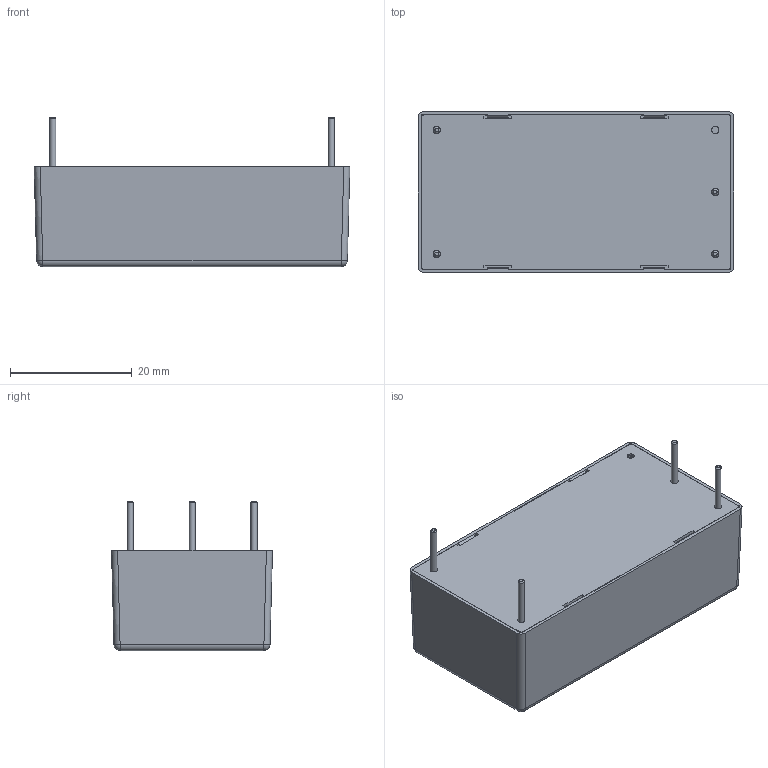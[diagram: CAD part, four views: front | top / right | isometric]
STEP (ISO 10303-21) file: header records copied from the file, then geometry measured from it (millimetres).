
FILE_DESCRIPTION(/* description */ (''),/* implementation_level */ '2;1');
FILE_NAME(/* name */ 'D:\Inventor\3D FILE\AHCH05.stp',/* time_stamp */ '2020-03-13T11:09:33+08:00',/* author */ ('peter'),/* organization */ (''),/* preprocessor_version */ 'ST-DEVELOPER v15.2',/* originating_system */ 'Autodesk Inventor 2014',/* authorisation */ '');
FILE_SCHEMA (('AUTOMOTIVE_DESIGN { 1 0 10303 214 3 1 1 }'));
Length unit declared in the file: millimetre
Products named in the file (4): BOT CASE _ AHCH05; PIN _ 22 x 1 mm; TOP CASE _ AHCH05; AHCH05
Bounding box: 51.82 x 26.42 x 24.51 mm (x, y, z)
Volume: 4624.2 mm3; surface area: 10401.9 mm2
Topology: 6 solids, 6 shells, 141 faces, 321 edges, 203 vertices
Faces by surface type: plane 79, cylinder 37, torus 16, cone 5, sphere 4
Full cylindrical faces by diameter (mm): 1 x8, 1.2 x5, 1.5 x4
Entity records: 3237 total; most frequent: DIRECTION 554, CARTESIAN_POINT 544, ORIENTED_EDGE 506, EDGE_CURVE 253, LINE 188, VECTOR 188, AXIS2_PLACEMENT_3D 183, VERTEX_POINT 173
